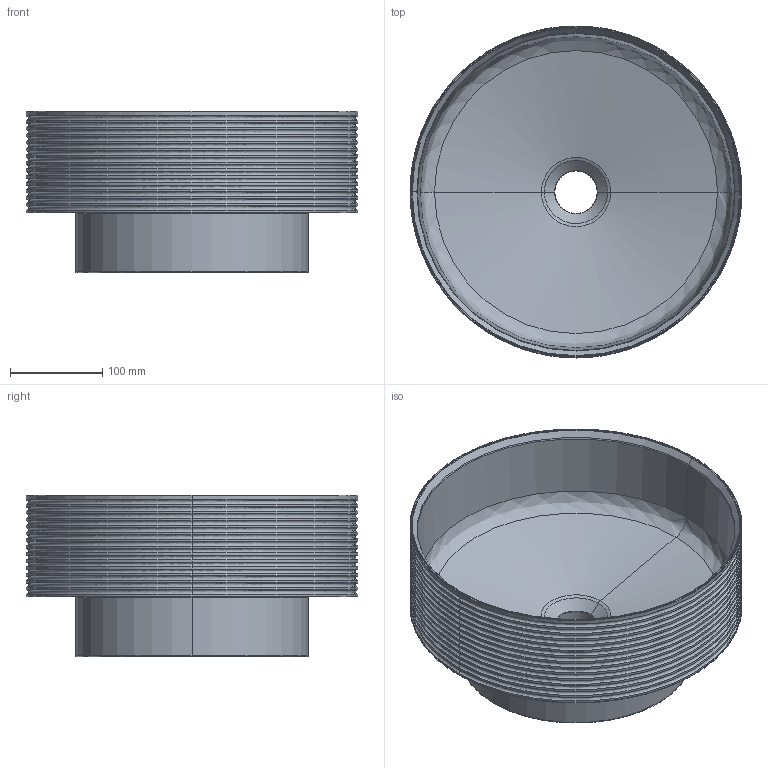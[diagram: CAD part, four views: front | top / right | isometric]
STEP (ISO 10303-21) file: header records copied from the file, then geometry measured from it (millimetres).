
FILE_DESCRIPTION(/* description */ (''),/* implementation_level */ '2;1');
FILE_NAME(/* name */ '00621_Papúa_C',/* time_stamp */ '2024-10-16T10:21:40+02:00',/* author */ (''),/* organization */ (''),/* preprocessor_version */ 'ST-DEVELOPER v19.2',/* originating_system */ 'Rhino 8.11',/* authorisation */ '');
FILE_SCHEMA (('CONFIG_CONTROL_DESIGN'));
Length unit declared in the file: millimetre
Products named in the file (1): Document
Bounding box: 360 x 360 x 175 mm (x, y, z)
Volume: 2817162.3 mm3; surface area: 558741.3 mm2
Topology: 1 solids, 1 shells, 112 faces, 224 edges, 112 vertices
Faces by surface type: bspline 70, cylinder 34, plane 8
Entity records: 4558 total; most frequent: CARTESIAN_POINT 2365, ORIENTED_EDGE 448, DIRECTION 368, EDGE_CURVE 224, AXIS2_PLACEMENT_3D 205, TRIMMED_CURVE 161, CIRCLE 161, ADVANCED_FACE 112
